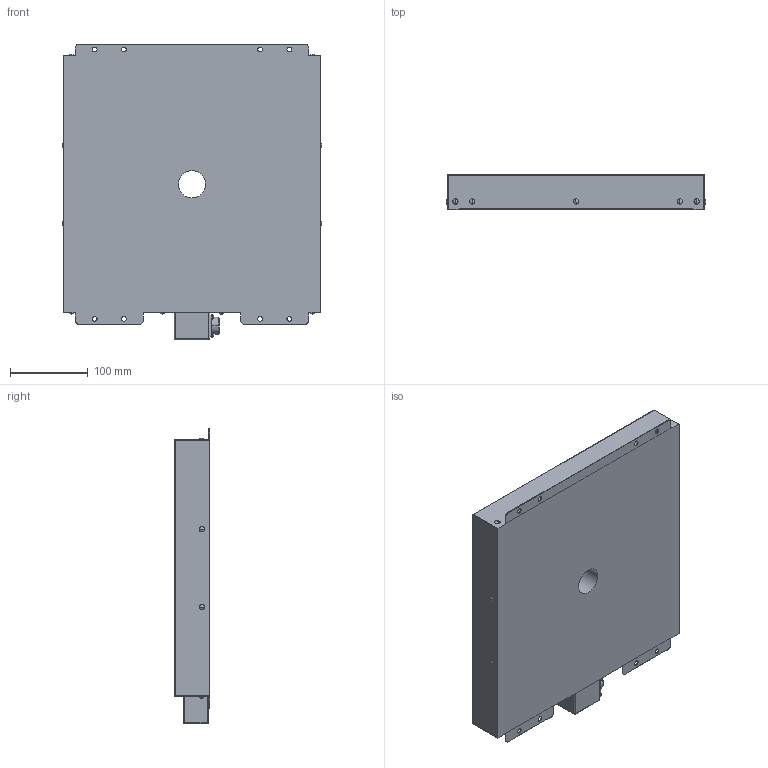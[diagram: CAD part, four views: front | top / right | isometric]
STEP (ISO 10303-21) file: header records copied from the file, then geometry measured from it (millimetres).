
FILE_DESCRIPTION (( 'STEP AP214' ), '1' );
FILE_NAME ('HDSBPA-300x300_-24-35D.STEP', '2023-06-01T06:11:25', ( '' ), ( '' ), 'SwSTEP 2.0', 'SolidWorks 2022', '' );
FILE_SCHEMA (( 'AUTOMOTIVE_DESIGN' ));
Length unit declared in the file: millimetre
Products named in the file (1): HDSBPA-300x300_-24-35D
Bounding box: 333.8 x 45 x 380 mm (x, y, z)
Volume: 4830134.1 mm3; surface area: 302018.2 mm2
Topology: 1 solids, 1 shells, 198 faces, 538 edges, 315 vertices
Faces by surface type: cylinder 98, sphere 54, plane 36, torus 8, cone 2
Entity records: 5802 total; most frequent: DIRECTION 1134, CARTESIAN_POINT 952, ORIENTED_EDGE 922, AXIS2_PLACEMENT_3D 474, EDGE_CURVE 461, VERTEX_POINT 292, CIRCLE 275, EDGE_LOOP 243
